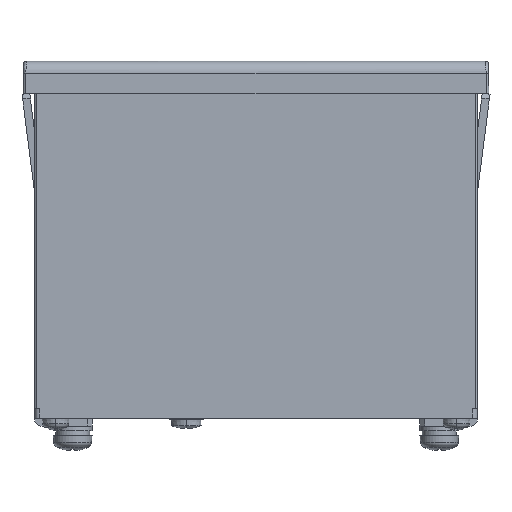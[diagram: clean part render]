
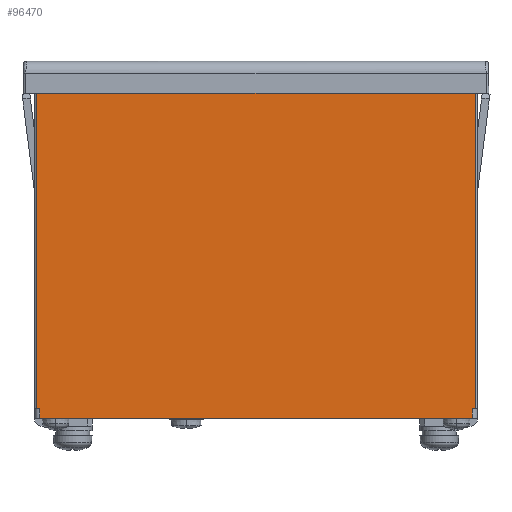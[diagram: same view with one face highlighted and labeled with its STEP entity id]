
A CAD part, front view. The second image highlights one B-rep face of the part: STEP entity #96470.
In plain terms, the highlighted planar face has unit normal (0, -1, 0).
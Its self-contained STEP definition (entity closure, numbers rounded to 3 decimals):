
#1490=CARTESIAN_POINT('',(45.2,21.8,-6.6));
#1500=VERTEX_POINT('',#1490);
#1550=CARTESIAN_POINT('',(-36.419,21.8,-6.6));
#1560=DIRECTION('',(1.,0.,0.));
#1570=VECTOR('',#1560,1.);
#1580=LINE('',#1550,#1570);
#1590=CARTESIAN_POINT('',(-45.2,21.8,-6.6));
#1600=VERTEX_POINT('',#1590);
#1610=EDGE_CURVE('',#1600,#1500,#1580,.T.);
#95890=CARTESIAN_POINT('',(45.2,21.8,
-6.6));
#95900=DIRECTION('',(-0.,1.,0.));
#95910=DIRECTION('',(1.,0.,0.));
#95920=AXIS2_PLACEMENT_3D('',#95890,#95900,#95910);
#95930=PLANE('',#95920);
#95940=ORIENTED_EDGE('',*,*,#1610,.F.);
#95950=CARTESIAN_POINT('',(45.2,21.8,
-6.6));
#95960=DIRECTION('',(0.,0.,-1.));
#95970=VECTOR('',#95960,1.);
#95980=LINE('',#95950,#95970);
#95990=CARTESIAN_POINT('',(45.2,21.8,
-71.6));
#96000=VERTEX_POINT('',#95990);
#96010=EDGE_CURVE('',#1500,#96000,#95980,.T.);
#96020=ORIENTED_EDGE('',*,*,#96010,.F.);
#96030=CARTESIAN_POINT('',(45.2,21.8,
-71.6));
#96040=DIRECTION('',(-1.,0.,0.));
#96050=VECTOR('',#96040,1.);
#96060=LINE('',#96030,#96050);
#96070=CARTESIAN_POINT('',(44.6,21.8,
-71.6));
#96080=VERTEX_POINT('',#96070);
#96090=EDGE_CURVE('',#96000,#96080,#96060,.T.);
#96100=ORIENTED_EDGE('',*,*,#96090,.F.);
#96110=CARTESIAN_POINT('',(44.6,21.8,-71.6));
#96120=DIRECTION('',(0.,0.,-1.));
#96130=VECTOR('',#96120,1.);
#96140=LINE('',#96110,#96130);
#96150=CARTESIAN_POINT('',(44.6,21.8,-73.6));
#96160=VERTEX_POINT('',#96150);
#96170=EDGE_CURVE('',#96080,#96160,#96140,.T.);
#96180=ORIENTED_EDGE('',*,*,#96170,.F.);
#96190=CARTESIAN_POINT('',(45.6,21.8,-73.6));
#96200=DIRECTION('',(-1.,0.,0.));
#96210=VECTOR('',#96200,1.);
#96220=LINE('',#96190,#96210);
#96230=CARTESIAN_POINT('',(-44.6,21.8,-73.6));
#96240=VERTEX_POINT('',#96230);
#96250=EDGE_CURVE('',#96160,#96240,#96220,.T.);
#96260=ORIENTED_EDGE('',*,*,#96250,.F.);
#96270=CARTESIAN_POINT('',(-44.6,21.8,-71.6));
#96280=DIRECTION('',(0.,0.,-1.));
#96290=VECTOR('',#96280,1.);
#96300=LINE('',#96270,#96290);
#96310=CARTESIAN_POINT('',(-44.6,21.8,
-71.6));
#96320=VERTEX_POINT('',#96310);
#96330=EDGE_CURVE('',#96320,#96240,#96300,.T.);
#96340=ORIENTED_EDGE('',*,*,#96330,.T.);
#96350=CARTESIAN_POINT('',(-45.2,21.8,
-71.6));
#96360=VERTEX_POINT('',#96350);
#96370=EDGE_CURVE('',#96320,#96360,#96060,.T.);
#96380=ORIENTED_EDGE('',*,*,#96370,.F.);
#96390=CARTESIAN_POINT('',(-45.2,21.8,
-6.6));
#96400=DIRECTION('',(0.,0.,-1.));
#96410=VECTOR('',#96400,1.);
#96420=LINE('',#96390,#96410);
#96430=EDGE_CURVE('',#1600,#96360,#96420,.T.);
#96440=ORIENTED_EDGE('',*,*,#96430,.T.);
#96450=EDGE_LOOP('',(#96440,#96380,#96340,#96260,#96180,#96100,#96020,
#95940));
#96460=FACE_OUTER_BOUND('',#96450,.T.);
#96470=ADVANCED_FACE('',(#96460),#95930,.F.);
